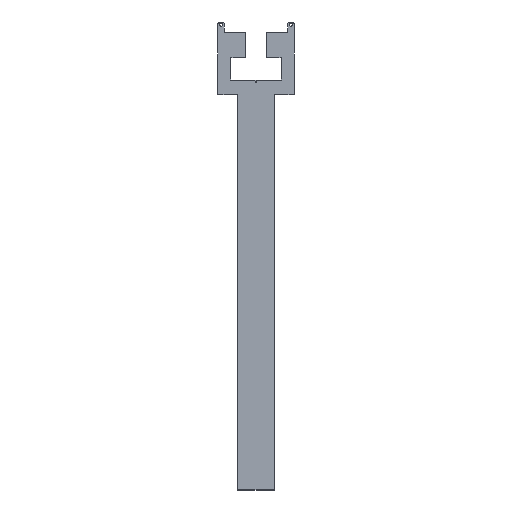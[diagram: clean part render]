
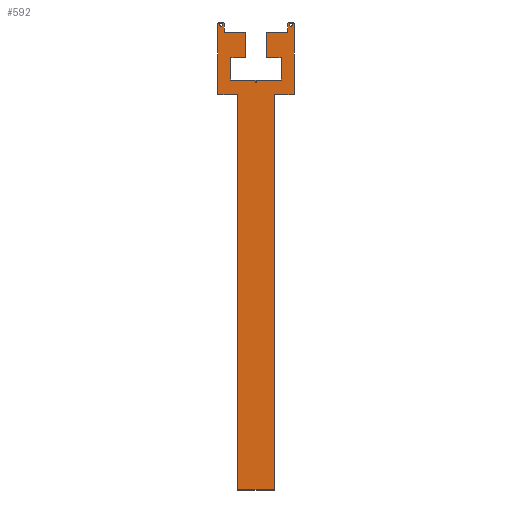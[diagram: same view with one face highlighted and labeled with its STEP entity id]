
A CAD part, top view. The second image highlights one B-rep face of the part: STEP entity #592.
In plain terms, the highlighted planar face has unit normal (0, 0, 1).
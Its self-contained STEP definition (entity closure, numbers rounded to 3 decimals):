
#21 = EDGE_CURVE('',#22,#24,#26,.T.);
#22 = VERTEX_POINT('',#23);
#23 = CARTESIAN_POINT('',(-24.01,21.89,6.));
#24 = VERTEX_POINT('',#25);
#25 = CARTESIAN_POINT('',(-24.01,27.89,6.));
#26 = LINE('',#27,#28);
#27 = CARTESIAN_POINT('',(-24.01,2.89,6.));
#28 = VECTOR('',#29,1.);
#29 = DIRECTION('',(0.,1.,0.));
#71 = EDGE_CURVE('',#72,#24,#74,.T.);
#72 = VERTEX_POINT('',#73);
#73 = CARTESIAN_POINT('',(-26.01,29.89,6.));
#74 = CIRCLE('',#75,2.);
#75 = AXIS2_PLACEMENT_3D('',#76,#77,#78);
#76 = CARTESIAN_POINT('',(-26.01,27.89,6.));
#77 = DIRECTION('',(-0.,-0.,-1.));
#78 = DIRECTION('',(0.,-1.,0.));
#106 = VERTEX_POINT('',#107);
#107 = CARTESIAN_POINT('',(-27.01,29.89,6.));
#113 = EDGE_CURVE('',#114,#106,#116,.T.);
#114 = VERTEX_POINT('',#115);
#115 = CARTESIAN_POINT('',(-29.01,27.89,6.));
#116 = CIRCLE('',#117,2.);
#117 = AXIS2_PLACEMENT_3D('',#118,#119,#120);
#118 = CARTESIAN_POINT('',(-27.01,27.89,6.));
#119 = DIRECTION('',(-0.,-0.,-1.));
#120 = DIRECTION('',(0.,-1.,0.));
#143 = EDGE_CURVE('',#106,#72,#144,.T.);
#144 = LINE('',#145,#146);
#145 = CARTESIAN_POINT('',(-29.01,29.89,6.));
#146 = VECTOR('',#147,1.);
#147 = DIRECTION('',(1.,0.,0.));
#167 = EDGE_CURVE('',#22,#168,#170,.T.);
#168 = VERTEX_POINT('',#169);
#169 = CARTESIAN_POINT('',(-8.01,21.89,6.));
#170 = LINE('',#171,#172);
#171 = CARTESIAN_POINT('',(-29.01,21.89,6.));
#172 = VECTOR('',#173,1.);
#173 = DIRECTION('',(1.,0.,0.));
#192 = VERTEX_POINT('',#193);
#193 = CARTESIAN_POINT('',(-8.01,2.89,6.));
#206 = EDGE_CURVE('',#192,#168,#207,.T.);
#207 = LINE('',#208,#209);
#208 = CARTESIAN_POINT('',(-8.01,2.89,6.));
#209 = VECTOR('',#210,1.);
#210 = DIRECTION('',(0.,1.,0.));
#229 = VERTEX_POINT('',#230);
#230 = CARTESIAN_POINT('',(-19.01,2.89,6.));
#236 = EDGE_CURVE('',#229,#192,#237,.T.);
#237 = LINE('',#238,#239);
#238 = CARTESIAN_POINT('',(-29.01,2.89,6.));
#239 = VECTOR('',#240,1.);
#240 = DIRECTION('',(1.,0.,0.));
#254 = VERTEX_POINT('',#255);
#255 = CARTESIAN_POINT('',(-19.01,-14.11,6.));
#268 = EDGE_CURVE('',#254,#229,#269,.T.);
#269 = LINE('',#270,#271);
#270 = CARTESIAN_POINT('',(-19.01,-25.11,6.));
#271 = VECTOR('',#272,1.);
#272 = DIRECTION('',(0.,1.,0.));
#285 = VERTEX_POINT('',#286);
#286 = CARTESIAN_POINT('',(18.99,-14.11,6.));
#299 = EDGE_CURVE('',#285,#254,#300,.T.);
#300 = LINE('',#301,#302);
#301 = CARTESIAN_POINT('',(18.99,-14.11,6.));
#302 = VECTOR('',#303,1.);
#303 = DIRECTION('',(-1.,0.,0.));
#314 = EDGE_CURVE('',#285,#315,#317,.T.);
#315 = VERTEX_POINT('',#316);
#316 = CARTESIAN_POINT('',(18.99,2.89,6.));
#317 = LINE('',#318,#319);
#318 = CARTESIAN_POINT('',(18.99,-25.11,6.));
#319 = VECTOR('',#320,1.);
#320 = DIRECTION('',(0.,1.,0.));
#344 = EDGE_CURVE('',#315,#345,#347,.T.);
#345 = VERTEX_POINT('',#346);
#346 = CARTESIAN_POINT('',(7.99,2.89,6.));
#347 = LINE('',#348,#349);
#348 = CARTESIAN_POINT('',(28.99,2.89,6.));
#349 = VECTOR('',#350,1.);
#350 = DIRECTION('',(-1.,0.,0.));
#376 = EDGE_CURVE('',#345,#377,#379,.T.);
#377 = VERTEX_POINT('',#378);
#378 = CARTESIAN_POINT('',(7.99,21.89,6.));
#379 = LINE('',#380,#381);
#380 = CARTESIAN_POINT('',(7.99,2.89,6.));
#381 = VECTOR('',#382,1.);
#382 = DIRECTION('',(0.,1.,0.));
#406 = EDGE_CURVE('',#407,#377,#409,.T.);
#407 = VERTEX_POINT('',#408);
#408 = CARTESIAN_POINT('',(23.99,21.89,6.));
#409 = LINE('',#410,#411);
#410 = CARTESIAN_POINT('',(28.99,21.89,6.));
#411 = VECTOR('',#412,1.);
#412 = DIRECTION('',(-1.,0.,0.));
#446 = EDGE_CURVE('',#407,#447,#449,.T.);
#447 = VERTEX_POINT('',#448);
#448 = CARTESIAN_POINT('',(23.99,27.89,6.));
#449 = LINE('',#450,#451);
#450 = CARTESIAN_POINT('',(23.99,2.89,6.));
#451 = VECTOR('',#452,1.);
#452 = DIRECTION('',(0.,1.,0.));
#468 = EDGE_CURVE('',#469,#447,#471,.T.);
#469 = VERTEX_POINT('',#470);
#470 = CARTESIAN_POINT('',(25.99,29.89,6.));
#471 = CIRCLE('',#472,2.);
#472 = AXIS2_PLACEMENT_3D('',#473,#474,#475);
#473 = CARTESIAN_POINT('',(25.99,27.89,6.));
#474 = DIRECTION('',(0.,-0.,1.));
#475 = DIRECTION('',(0.,1.,0.));
#501 = EDGE_CURVE('',#502,#504,#506,.T.);
#502 = VERTEX_POINT('',#503);
#503 = CARTESIAN_POINT('',(28.99,27.89,6.));
#504 = VERTEX_POINT('',#505);
#505 = CARTESIAN_POINT('',(26.99,29.89,6.));
#506 = CIRCLE('',#507,2.);
#507 = AXIS2_PLACEMENT_3D('',#508,#509,#510);
#508 = CARTESIAN_POINT('',(26.99,27.89,6.));
#509 = DIRECTION('',(0.,-0.,1.));
#510 = DIRECTION('',(0.,1.,0.));
#543 = EDGE_CURVE('',#504,#469,#544,.T.);
#544 = LINE('',#545,#546);
#545 = CARTESIAN_POINT('',(28.99,29.89,6.));
#546 = VECTOR('',#547,1.);
#547 = DIRECTION('',(-1.,0.,0.));
#575 = VERTEX_POINT('',#576);
#576 = CARTESIAN_POINT('',(-29.01,-25.11,6.));
#582 = EDGE_CURVE('',#575,#114,#583,.T.);
#583 = LINE('',#584,#585);
#584 = CARTESIAN_POINT('',(-29.01,-25.11,6.));
#585 = VECTOR('',#586,1.);
#586 = DIRECTION('',(0.,1.,0.));
#592 = ADVANCED_FACE('',(#593,#659,#670,#681),#692,.T.);
#593 = FACE_BOUND('',#594,.T.);
#594 = EDGE_LOOP('',(#595,#596,#604,#612,#620,#628,#636,#642,#643,#644,
    #645,#646,#647,#648,#649,#650,#651,#652,#653,#654,#655,#656,#657,
    #658));
#595 = ORIENTED_EDGE('',*,*,#582,.F.);
#596 = ORIENTED_EDGE('',*,*,#597,.T.);
#597 = EDGE_CURVE('',#575,#598,#600,.T.);
#598 = VERTEX_POINT('',#599);
#599 = CARTESIAN_POINT('',(-14.01,-25.11,6.));
#600 = LINE('',#601,#602);
#601 = CARTESIAN_POINT('',(-29.01,-25.11,6.));
#602 = VECTOR('',#603,1.);
#603 = DIRECTION('',(1.,0.,0.));
#604 = ORIENTED_EDGE('',*,*,#605,.F.);
#605 = EDGE_CURVE('',#606,#598,#608,.T.);
#606 = VERTEX_POINT('',#607);
#607 = CARTESIAN_POINT('',(-14.01,-325.11,6.));
#608 = LINE('',#609,#610);
#609 = CARTESIAN_POINT('',(-14.01,-325.11,6.));
#610 = VECTOR('',#611,1.);
#611 = DIRECTION('',(0.,1.,0.));
#612 = ORIENTED_EDGE('',*,*,#613,.F.);
#613 = EDGE_CURVE('',#614,#606,#616,.T.);
#614 = VERTEX_POINT('',#615);
#615 = CARTESIAN_POINT('',(13.99,-325.11,6.));
#616 = LINE('',#617,#618);
#617 = CARTESIAN_POINT('',(13.99,-325.11,6.));
#618 = VECTOR('',#619,1.);
#619 = DIRECTION('',(-1.,0.,0.));
#620 = ORIENTED_EDGE('',*,*,#621,.T.);
#621 = EDGE_CURVE('',#614,#622,#624,.T.);
#622 = VERTEX_POINT('',#623);
#623 = CARTESIAN_POINT('',(13.99,-25.11,6.));
#624 = LINE('',#625,#626);
#625 = CARTESIAN_POINT('',(13.99,-325.11,6.));
#626 = VECTOR('',#627,1.);
#627 = DIRECTION('',(0.,1.,0.));
#628 = ORIENTED_EDGE('',*,*,#629,.F.);
#629 = EDGE_CURVE('',#630,#622,#632,.T.);
#630 = VERTEX_POINT('',#631);
#631 = CARTESIAN_POINT('',(28.99,-25.11,6.));
#632 = LINE('',#633,#634);
#633 = CARTESIAN_POINT('',(18.99,-25.11,6.));
#634 = VECTOR('',#635,1.);
#635 = DIRECTION('',(-1.,0.,0.));
#636 = ORIENTED_EDGE('',*,*,#637,.T.);
#637 = EDGE_CURVE('',#630,#502,#638,.T.);
#638 = LINE('',#639,#640);
#639 = CARTESIAN_POINT('',(28.99,-25.11,6.));
#640 = VECTOR('',#641,1.);
#641 = DIRECTION('',(0.,1.,0.));
#642 = ORIENTED_EDGE('',*,*,#501,.T.);
#643 = ORIENTED_EDGE('',*,*,#543,.T.);
#644 = ORIENTED_EDGE('',*,*,#468,.T.);
#645 = ORIENTED_EDGE('',*,*,#446,.F.);
#646 = ORIENTED_EDGE('',*,*,#406,.T.);
#647 = ORIENTED_EDGE('',*,*,#376,.F.);
#648 = ORIENTED_EDGE('',*,*,#344,.F.);
#649 = ORIENTED_EDGE('',*,*,#314,.F.);
#650 = ORIENTED_EDGE('',*,*,#299,.T.);
#651 = ORIENTED_EDGE('',*,*,#268,.T.);
#652 = ORIENTED_EDGE('',*,*,#236,.T.);
#653 = ORIENTED_EDGE('',*,*,#206,.T.);
#654 = ORIENTED_EDGE('',*,*,#167,.F.);
#655 = ORIENTED_EDGE('',*,*,#21,.T.);
#656 = ORIENTED_EDGE('',*,*,#71,.F.);
#657 = ORIENTED_EDGE('',*,*,#143,.F.);
#658 = ORIENTED_EDGE('',*,*,#113,.F.);
#659 = FACE_BOUND('',#660,.T.);
#660 = EDGE_LOOP('',(#661));
#661 = ORIENTED_EDGE('',*,*,#662,.T.);
#662 = EDGE_CURVE('',#663,#663,#665,.T.);
#663 = VERTEX_POINT('',#664);
#664 = CARTESIAN_POINT('',(-25.31,27.89,6.));
#665 = CIRCLE('',#666,1.2);
#666 = AXIS2_PLACEMENT_3D('',#667,#668,#669);
#667 = CARTESIAN_POINT('',(-26.51,27.89,6.));
#668 = DIRECTION('',(0.,0.,-1.));
#669 = DIRECTION('',(1.,0.,0.));
#670 = FACE_BOUND('',#671,.T.);
#671 = EDGE_LOOP('',(#672));
#672 = ORIENTED_EDGE('',*,*,#673,.T.);
#673 = EDGE_CURVE('',#674,#674,#676,.T.);
#674 = VERTEX_POINT('',#675);
#675 = CARTESIAN_POINT('',(27.69,27.89,6.));
#676 = CIRCLE('',#677,1.2);
#677 = AXIS2_PLACEMENT_3D('',#678,#679,#680);
#678 = CARTESIAN_POINT('',(26.49,27.89,6.));
#679 = DIRECTION('',(0.,0.,-1.));
#680 = DIRECTION('',(1.,0.,0.));
#681 = FACE_BOUND('',#682,.T.);
#682 = EDGE_LOOP('',(#683));
#683 = ORIENTED_EDGE('',*,*,#684,.T.);
#684 = EDGE_CURVE('',#685,#685,#687,.T.);
#685 = VERTEX_POINT('',#686);
#686 = CARTESIAN_POINT('',(0.54,-15.61,6.));
#687 = CIRCLE('',#688,0.55);
#688 = AXIS2_PLACEMENT_3D('',#689,#690,#691);
#689 = CARTESIAN_POINT('',(-0.01,-15.61,6.));
#690 = DIRECTION('',(0.,0.,-1.));
#691 = DIRECTION('',(1.,0.,0.));
#692 = PLANE('',#693);
#693 = AXIS2_PLACEMENT_3D('',#694,#695,#696);
#694 = CARTESIAN_POINT('',(-0.01,-118.969,6.));
#695 = DIRECTION('',(0.,0.,1.));
#696 = DIRECTION('',(0.,1.,0.));
